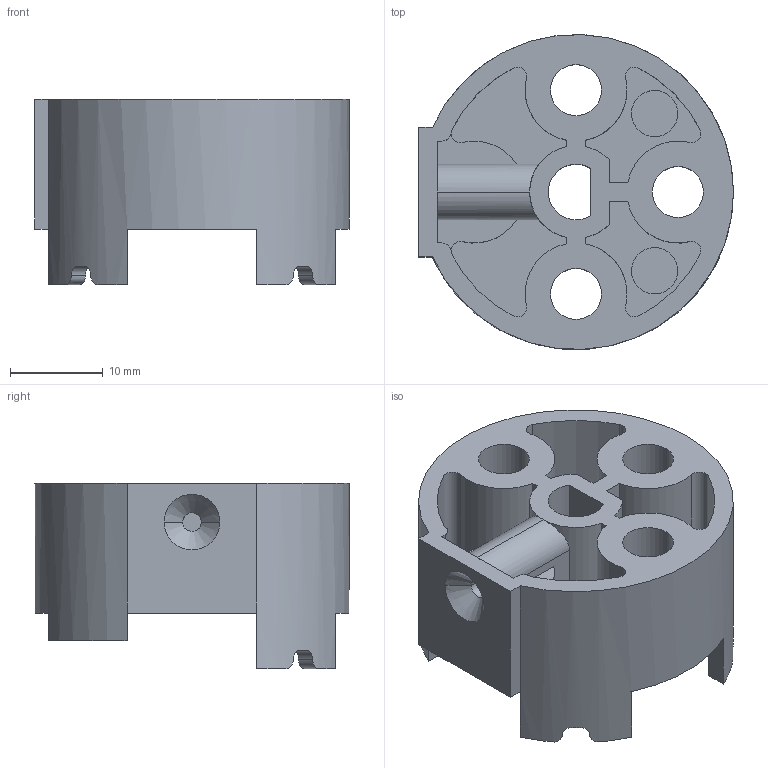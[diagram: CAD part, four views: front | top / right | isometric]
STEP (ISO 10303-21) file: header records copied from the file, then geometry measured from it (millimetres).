
FILE_DESCRIPTION(('CATIA V5 STEP Exchange'),'2;1');
FILE_NAME('C:\Users\myyao\Desktop\新建文件夹\TY62.04_V2_3D打印用.stp','2019-04-15T02:49:53+00:00',('none'),('none'),'CATIA Version 5 Release 21 GA (IN-10)','CATIA V5 STEP AP203','none');
FILE_SCHEMA(('CONFIG_CONTROL_DESIGN'));
Length unit declared in the file: millimetre
Products named in the file (1): 传感器摆杆座
Bounding box: 34 x 33.97 x 20 mm (x, y, z)
Volume: 7501.5 mm3; surface area: 7097.2 mm2
Topology: 1 solids, 1 shells, 145 faces, 392 edges, 260 vertices
Faces by surface type: cylinder 81, plane 62, cone 2
Entity records: 4309 total; most frequent: CARTESIAN_POINT 851, ORIENTED_EDGE 784, DIRECTION 552, EDGE_CURVE 392, VERTEX_POINT 260, AXIS2_PLACEMENT_3D 255, VECTOR 208, LINE 208
